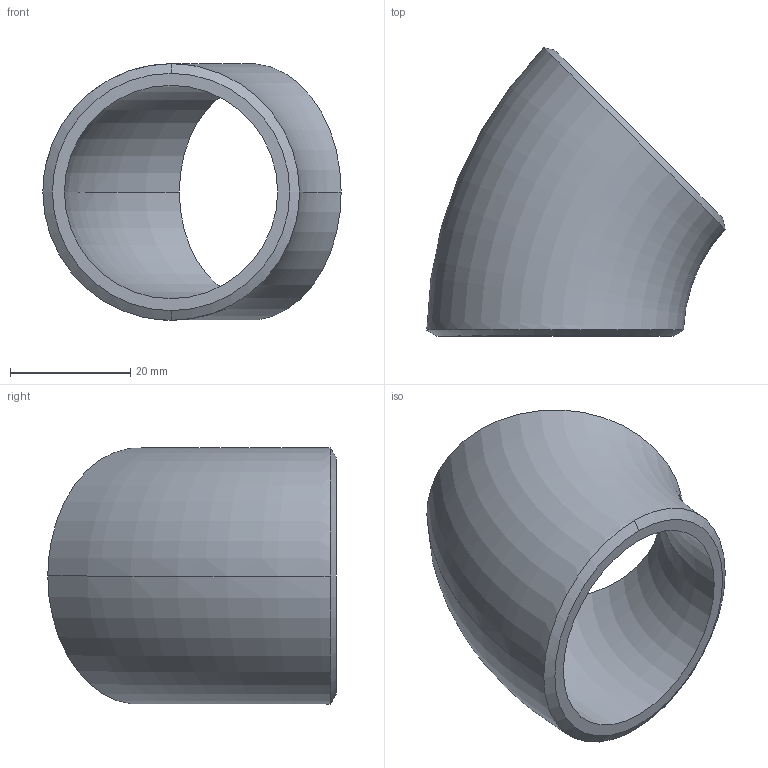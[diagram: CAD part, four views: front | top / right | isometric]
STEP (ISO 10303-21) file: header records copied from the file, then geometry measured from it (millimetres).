
FILE_DESCRIPTION (( 'STEP AP214' ), '1' );
FILE_NAME ('Elbow-long-45deg_Sch40-32A.STEP', '2021-09-16T04:32:04', ( 'ASIS User' ), ( 'ASIS User' ), 'SwSTEP 2.0', 'SolidWorks 2021', '' );
FILE_SCHEMA (( 'AUTOMOTIVE_DESIGN' ));
Length unit declared in the file: millimetre
Products named in the file (1): Elbow-long-45deg_Sch40-32A
Bounding box: 49.65 x 48 x 42.7 mm (x, y, z)
Volume: 16304.8 mm3; surface area: 9864.9 mm2
Topology: 1 solids, 1 shells, 10 faces, 22 edges, 14 vertices
Faces by surface type: torus 4, cone 4, plane 2
Entity records: 539 total; most frequent: CARTESIAN_POINT 278, DIRECTION 50, ORIENTED_EDGE 44, AXIS2_PLACEMENT_3D 23, EDGE_CURVE 22, VERTEX_POINT 14, EDGE_LOOP 12, CIRCLE 12
